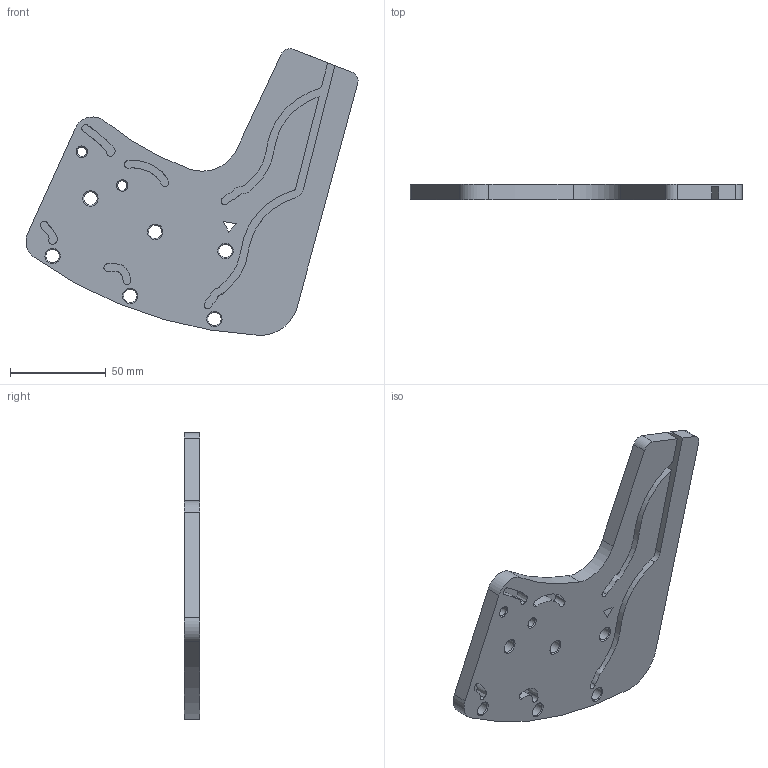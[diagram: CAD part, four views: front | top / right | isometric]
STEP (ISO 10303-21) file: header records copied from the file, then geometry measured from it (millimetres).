
FILE_DESCRIPTION(/* description */ (''),/* implementation_level */ '2;1');
FILE_NAME(/* name */ 'GETOUT_STAVE_89.stp',/* time_stamp */ '2018-10-15T10:05:10+02:00',/* author */ (''),/* organization */ (''),/* preprocessor_version */ 'ST-DEVELOPER v16.7',/* originating_system */ 'SIEMENS PLM Software NX 12.0',/* authorisation */ '');
FILE_SCHEMA (('AP203_CONFIGURATION_CONTROLLED_3D_DESIGN_OF_MECHANICAL_PARTS_AND_ASSEMBLIES_MIM_LF { 1 0 10303 403 2 1 2}'));
Length unit declared in the file: millimetre
Products named in the file (1): turc3FB8140Bmnyy
Bounding box: 173.4 x 8 x 149.71 mm (x, y, z)
Volume: 106529 mm3; surface area: 39130.5 mm2
Topology: 1 solids, 1 shells, 315 faces, 815 edges, 538 vertices
Faces by surface type: plane 215, extrusion 55, cylinder 29, cone 16
Full cylindrical faces by diameter (mm): 5 x2, 7 x6
Entity records: 12277 total; most frequent: CARTESIAN_POINT 5339, ORIENTED_EDGE 1582, DIRECTION 997, EDGE_CURVE 791, VERTEX_POINT 538, B_SPLINE_CURVE_WITH_KNOTS 500, EDGE_LOOP 393, AXIS2_PLACEMENT_3D 335
